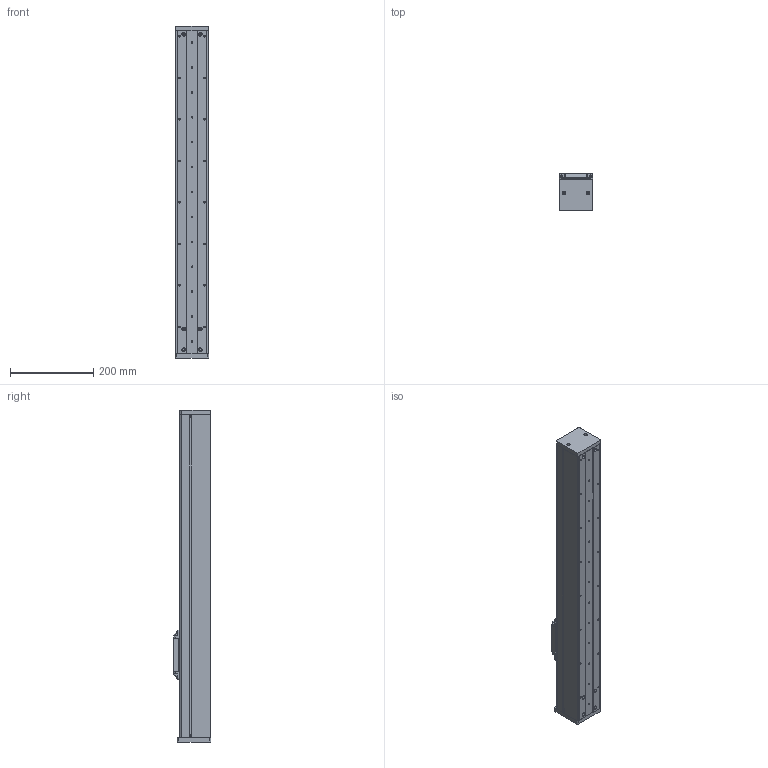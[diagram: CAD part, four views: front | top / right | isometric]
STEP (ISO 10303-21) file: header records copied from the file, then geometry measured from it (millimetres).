
FILE_DESCRIPTION (( 'STEP AP214' ), '1' );
FILE_NAME ('CF80-16-C-550-FW60.STEP', '2016-02-19T02:36:14', ( '' ), ( '' ), 'SwSTEP 2.0', 'SolidWorks 2015', '' );
FILE_SCHEMA (( 'AUTOMOTIVE_DESIGN' ));
Length unit declared in the file: millimetre
Products named in the file (13): 賑雄輸; EGR15絳寢; CF80-60萇儂假蚾啣; 賑雄輸裔啣; EGW15CA賑輸; CF80-16-C-550-FW60; CF80盓傅釱; CFN80菁釱; CF80詩湍; CFN80墙板; 詩湍揤啣; CFN80嘐隅釱; CF80耜啣
Assembly tree (14 placements, depth 2):
  CF80-16-C-550-FW60
    CFN80菁釱
    CFN80墙板  x2
    EGW15CA賑輸
    EGR15絳寢
    CF80盓傅釱
    賑雄輸
    CFN80嘐隅釱
    賑雄輸裔啣
    CF80-60萇儂假蚾啣
    CF80耜啣
    CF80詩湍
    詩湍揤啣  x2
Bounding box: 80.02 x 91 x 800 mm (x, y, z)
Volume: 1591078.8 mm3; surface area: 752182.4 mm2
Topology: 14 solids, 14 shells, 739 faces, 2048 edges, 1356 vertices
Faces by surface type: cylinder 375, plane 356, cone 8
Entity records: 24545 total; most frequent: CARTESIAN_POINT 5699, DIRECTION 3791, ORIENTED_EDGE 3746, EDGE_CURVE 1873, AXIS2_PLACEMENT_3D 1348, VERTEX_POINT 1242, VECTOR 1095, LINE 1095
